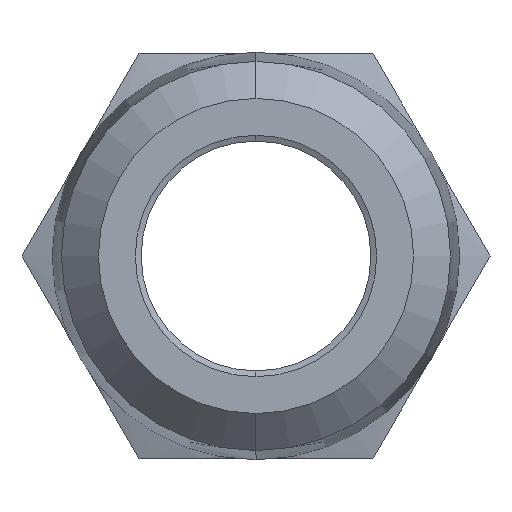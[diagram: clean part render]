
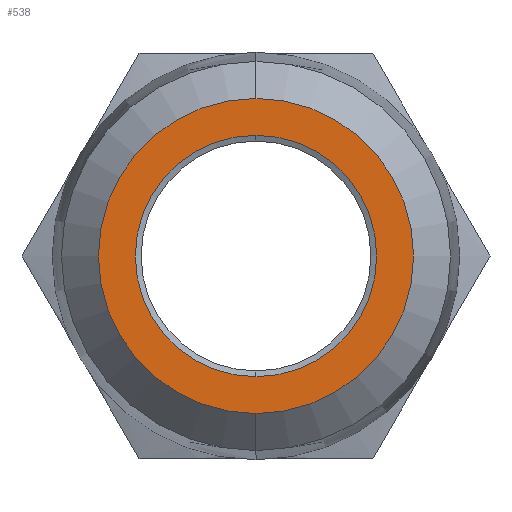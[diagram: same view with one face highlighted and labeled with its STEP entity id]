
A CAD part, left-side view. The second image highlights one B-rep face of the part: STEP entity #538.
In plain terms, the highlighted planar face has unit normal (-1, 0, 0).
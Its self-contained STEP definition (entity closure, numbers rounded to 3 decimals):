
#35 = EDGE_LOOP ( 'NONE', ( #36, #38 ) ) ;
#36 = ORIENTED_EDGE ( 'NONE', *, *, #37, .T. ) ;
#37 = EDGE_CURVE ( 'NONE', #130, #133, #416, .T. ) ;
#38 = ORIENTED_EDGE ( 'NONE', *, *, #60, .T. ) ;
#60 = EDGE_CURVE ( 'NONE', #133, #130, #496, .T. ) ;
#88 = VERTEX_POINT ( 'NONE', #536 ) ;
#130 = VERTEX_POINT ( 'NONE', #654 ) ;
#133 = VERTEX_POINT ( 'NONE', #649 ) ;
#136 = EDGE_CURVE ( 'NONE', #88, #137, #644, .T. ) ;
#137 = VERTEX_POINT ( 'NONE', #639 ) ;
#244 = EDGE_LOOP ( 'NONE', ( #427, #429 ) ) ;
#412 = DIRECTION ( 'NONE',  ( 0., 0., 1. ) ) ;
#413 = DIRECTION ( 'NONE',  ( -1., 0., 0. ) ) ;
#414 = CARTESIAN_POINT ( 'NONE',  ( -14., 0., 0. ) ) ;
#415 = AXIS2_PLACEMENT_3D ( 'NONE', #414, #413, #412 ) ;
#416 = CIRCLE ( 'NONE', #415, 6.786 ) ;
#427 = ORIENTED_EDGE ( 'NONE', *, *, #428, .F. ) ;
#428 = EDGE_CURVE ( 'NONE', #137, #88, #1311, .T. ) ;
#429 = ORIENTED_EDGE ( 'NONE', *, *, #136, .F. ) ;
#488 = DIRECTION ( 'NONE',  ( 0., 0., 1. ) ) ;
#489 = DIRECTION ( 'NONE',  ( -1., 0., 0. ) ) ;
#490 = CARTESIAN_POINT ( 'NONE',  ( -14., 0., 0. ) ) ;
#491 = AXIS2_PLACEMENT_3D ( 'NONE', #490, #489, #488 ) ;
#496 = CIRCLE ( 'NONE', #491, 6.786 ) ;
#536 = CARTESIAN_POINT ( 'NONE',  ( -14., 0., -5.2 ) ) ;
#538 = ADVANCED_FACE ( 'NONE', ( #1302, #1301 ), #1300, .T. ) ;
#639 = CARTESIAN_POINT ( 'NONE',  ( -14., 0., 5.2 ) ) ;
#640 = DIRECTION ( 'NONE',  ( 0., 0., 1. ) ) ;
#641 = DIRECTION ( 'NONE',  ( -1., 0., 0. ) ) ;
#642 = CARTESIAN_POINT ( 'NONE',  ( -14., 0., 0. ) ) ;
#643 = AXIS2_PLACEMENT_3D ( 'NONE', #642, #641, #640 ) ;
#644 = CIRCLE ( 'NONE', #643, 5.2 ) ;
#649 = CARTESIAN_POINT ( 'NONE',  ( -14., 0., 6.786 ) ) ;
#654 = CARTESIAN_POINT ( 'NONE',  ( -14., 0., -6.786 ) ) ;
#1295 = DIRECTION ( 'NONE',  ( 0., 0., 1. ) ) ;
#1296 = DIRECTION ( 'NONE',  ( -1., 0., 0. ) ) ;
#1297 = AXIS2_PLACEMENT_3D ( 'NONE', #1299, #1296, #1295 ) ;
#1299 = CARTESIAN_POINT ( 'NONE',  ( -14., 0., 0. ) ) ;
#1300 = PLANE ( 'NONE',  #1297 ) ;
#1301 = FACE_BOUND ( 'NONE', #244, .T. ) ;
#1302 = FACE_OUTER_BOUND ( 'NONE', #35, .T. ) ;
#1303 = DIRECTION ( 'NONE',  ( 0., 0., 1. ) ) ;
#1304 = DIRECTION ( 'NONE',  ( -1., 0., 0. ) ) ;
#1305 = CARTESIAN_POINT ( 'NONE',  ( -14., 0., 0. ) ) ;
#1306 = AXIS2_PLACEMENT_3D ( 'NONE', #1305, #1304, #1303 ) ;
#1311 = CIRCLE ( 'NONE', #1306, 5.2 ) ;
